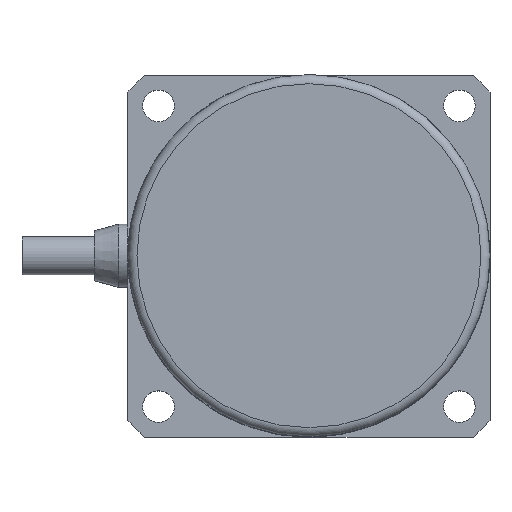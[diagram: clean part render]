
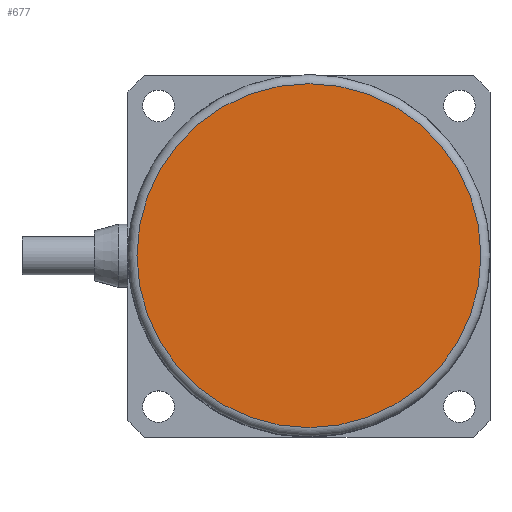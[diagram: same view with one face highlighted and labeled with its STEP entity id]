
A CAD part, top view. The second image highlights one B-rep face of the part: STEP entity #677.
In plain terms, the highlighted planar face has unit normal (0, 0, 1) as drawn and (0, 0, -1) by its records, which use the part's own axes.
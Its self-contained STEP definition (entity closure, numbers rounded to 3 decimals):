
#677=ADVANCED_FACE('',(#1314),#1315,.F.);
#1314=FACE_OUTER_BOUND('',#2051,.T.);
#1315=PLANE('',#2052);
#2051=EDGE_LOOP('',(#3148));
#2052=AXIS2_PLACEMENT_3D('',#3149,#3150,#3151);
#3148=ORIENTED_EDGE('',*,*,#4215,.T.);
#3149=CARTESIAN_POINT('',(0.0,0.0,0.0));
#3150=DIRECTION('',(0.0,0.0,1.0));
#3151=DIRECTION('',(1.0,0.0,0.0));
#4215=EDGE_CURVE('',#4899,#4899,#4900,.F.);
#4899=VERTEX_POINT('',#6070);
#4900=CIRCLE('',#6071,19.0);
#6070=CARTESIAN_POINT('',(19.0,0.,0.0));
#6071=AXIS2_PLACEMENT_3D('',#7372,#7373,#7374);
#7372=CARTESIAN_POINT('',(0.0,0.0,0.0));
#7373=DIRECTION('',(0.0,0.0,1.0));
#7374=DIRECTION('',(1.0,0.0,0.0));
